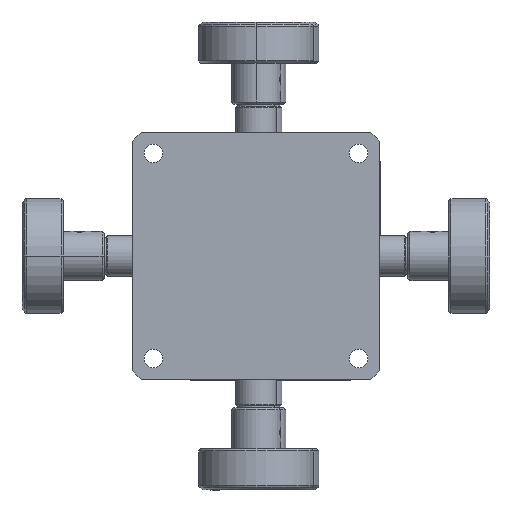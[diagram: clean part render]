
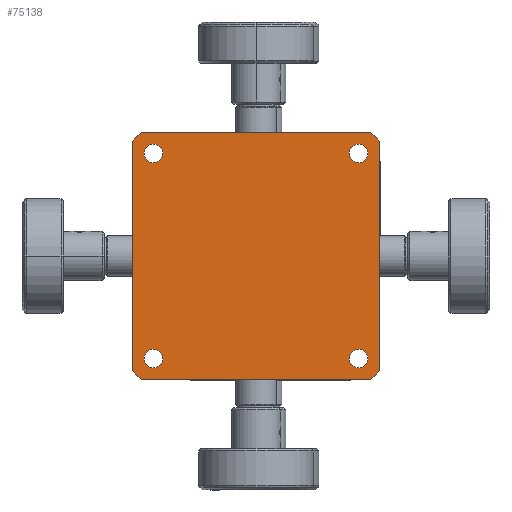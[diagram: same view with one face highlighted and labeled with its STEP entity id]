
A CAD part, front view. The second image highlights one B-rep face of the part: STEP entity #75138.
In plain terms, the highlighted planar face has unit normal (0, -1, 0).
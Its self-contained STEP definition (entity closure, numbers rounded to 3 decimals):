
#1743 = CIRCLE ( 'NONE', #93857, 2.25 ) ;
#2225 = VERTEX_POINT ( 'NONE', #23548 ) ;
#2943 = VERTEX_POINT ( 'NONE', #48258 ) ;
#6163 = EDGE_CURVE ( 'NONE', #82065, #85429, #98895, .T. ) ;
#6830 = ORIENTED_EDGE ( 'NONE', *, *, #37464, .T. ) ;
#8238 = DIRECTION ( 'NONE',  ( -0.707, 0., 0.707 ) ) ;
#9490 = ORIENTED_EDGE ( 'NONE', *, *, #87876, .T. ) ;
#9529 = DIRECTION ( 'NONE',  ( 0., 1., 0. ) ) ;
#9963 = ORIENTED_EDGE ( 'NONE', *, *, #86907, .T. ) ;
#9985 = CIRCLE ( 'NONE', #32403, 2.25 ) ;
#10302 = DIRECTION ( 'NONE',  ( 0., 0., 1. ) ) ;
#10327 = EDGE_CURVE ( 'NONE', #97647, #83918, #12019, .T. ) ;
#10379 = CARTESIAN_POINT ( 'NONE',  ( -30., 0., 30. ) ) ;
#10443 = FACE_BOUND ( 'NONE', #88870, .T. ) ;
#11024 = ORIENTED_EDGE ( 'NONE', *, *, #13694, .F. ) ;
#12019 = LINE ( 'NONE', #32781, #48084 ) ;
#12849 = FACE_BOUND ( 'NONE', #75709, .T. ) ;
#13459 = CIRCLE ( 'NONE', #94646, 2.25 ) ;
#13694 = EDGE_CURVE ( 'NONE', #29425, #85429, #78879, .T. ) ;
#15344 = VECTOR ( 'NONE', #36857, 1000. ) ;
#15968 = CARTESIAN_POINT ( 'NONE',  ( -1., 0., 59. ) ) ;
#16362 = EDGE_CURVE ( 'NONE', #87257, #94373, #9985, .T. ) ;
#16370 = VERTEX_POINT ( 'NONE', #53604 ) ;
#19695 = AXIS2_PLACEMENT_3D ( 'NONE', #67908, #21924, #75607 ) ;
#19787 = DIRECTION ( 'NONE',  ( 0., -1., 0. ) ) ;
#21456 = ORIENTED_EDGE ( 'NONE', *, *, #45160, .T. ) ;
#21851 = LINE ( 'NONE', #74332, #60314 ) ;
#21924 = DIRECTION ( 'NONE',  ( 0., 1., 0. ) ) ;
#22011 = CARTESIAN_POINT ( 'NONE',  ( 25., 0., 25. ) ) ;
#22739 = ORIENTED_EDGE ( 'NONE', *, *, #65158, .T. ) ;
#23059 = CARTESIAN_POINT ( 'NONE',  ( -25., 0., 25. ) ) ;
#23219 = EDGE_CURVE ( 'NONE', #25332, #30053, #70305, .T. ) ;
#23548 = CARTESIAN_POINT ( 'NONE',  ( -28., 0., -30. ) ) ;
#24222 = LINE ( 'NONE', #25736, #42244 ) ;
#25332 = VERTEX_POINT ( 'NONE', #49418 ) ;
#25736 = CARTESIAN_POINT ( 'NONE',  ( -59., 0., 1. ) ) ;
#25877 = CARTESIAN_POINT ( 'NONE',  ( -25., 0., -25. ) ) ;
#27598 = CARTESIAN_POINT ( 'NONE',  ( -30., 0., -28. ) ) ;
#29425 = VERTEX_POINT ( 'NONE', #27598 ) ;
#29489 = VECTOR ( 'NONE', #8238, 1000. ) ;
#29734 = DIRECTION ( 'NONE',  ( 1., 0., 0. ) ) ;
#29836 = DIRECTION ( 'NONE',  ( 0., 1., 0. ) ) ;
#30053 = VERTEX_POINT ( 'NONE', #70994 ) ;
#30246 = CARTESIAN_POINT ( 'NONE',  ( 22.75, 0., 25. ) ) ;
#30741 = DIRECTION ( 'NONE',  ( 1., 0., 0. ) ) ;
#31396 = LINE ( 'NONE', #99420, #94985 ) ;
#31653 = CARTESIAN_POINT ( 'NONE',  ( 25., 0., -25. ) ) ;
#32403 = AXIS2_PLACEMENT_3D ( 'NONE', #23059, #76730, #30741 ) ;
#32781 = CARTESIAN_POINT ( 'NONE',  ( 29., 0., -29. ) ) ;
#33104 = DIRECTION ( 'NONE',  ( 0.707, 0., 0.707 ) ) ;
#33343 = LINE ( 'NONE', #44622, #15344 ) ;
#33539 = DIRECTION ( 'NONE',  ( 1., 0., 0. ) ) ;
#35376 = VECTOR ( 'NONE', #38886, 1000. ) ;
#35996 = AXIS2_PLACEMENT_3D ( 'NONE', #25877, #79538, #33539 ) ;
#36209 = CARTESIAN_POINT ( 'NONE',  ( 25., 0., 25. ) ) ;
#36720 = CARTESIAN_POINT ( 'NONE',  ( -27.25, 0., 25. ) ) ;
#36857 = DIRECTION ( 'NONE',  ( 0., 0., -1. ) ) ;
#37464 = EDGE_CURVE ( 'NONE', #16370, #2943, #72864, .T. ) ;
#38094 = CARTESIAN_POINT ( 'NONE',  ( -29., 0., 29. ) ) ;
#38886 = DIRECTION ( 'NONE',  ( -0.707, 0., -0.707 ) ) ;
#39383 = DIRECTION ( 'NONE',  ( 1., 0., 0. ) ) ;
#40471 = VECTOR ( 'NONE', #10302, 1000. ) ;
#41714 = CARTESIAN_POINT ( 'NONE',  ( -30., 0., 28. ) ) ;
#42244 = VECTOR ( 'NONE', #56274, 1000. ) ;
#42970 = EDGE_CURVE ( 'NONE', #97647, #2225, #31396, .T. ) ;
#43102 = EDGE_CURVE ( 'NONE', #29425, #2225, #24222, .T. ) ;
#43960 = DIRECTION ( 'NONE',  ( 1., 0., 0. ) ) ;
#43980 = CIRCLE ( 'NONE', #35996, 2.25 ) ;
#44622 = CARTESIAN_POINT ( 'NONE',  ( 30., 0., 30. ) ) ;
#45160 = EDGE_CURVE ( 'NONE', #94373, #87257, #45526, .T. ) ;
#45526 = CIRCLE ( 'NONE', #98704, 2.25 ) ;
#45935 = EDGE_CURVE ( 'NONE', #25332, #83918, #33343, .T. ) ;
#46266 = CARTESIAN_POINT ( 'NONE',  ( 27.25, 0., 25. ) ) ;
#47467 = ORIENTED_EDGE ( 'NONE', *, *, #6163, .T. ) ;
#48084 = VECTOR ( 'NONE', #33104, 1000. ) ;
#48258 = CARTESIAN_POINT ( 'NONE',  ( 22.75, 0., -25. ) ) ;
#49147 = ORIENTED_EDGE ( 'NONE', *, *, #69660, .F. ) ;
#49418 = CARTESIAN_POINT ( 'NONE',  ( 30., 0., 28. ) ) ;
#51322 = FACE_BOUND ( 'NONE', #86356, .T. ) ;
#52856 = AXIS2_PLACEMENT_3D ( 'NONE', #88576, #19787, #73523 ) ;
#53604 = CARTESIAN_POINT ( 'NONE',  ( 27.25, 0., -25. ) ) ;
#55546 = CARTESIAN_POINT ( 'NONE',  ( -25., 0., 25. ) ) ;
#56274 = DIRECTION ( 'NONE',  ( 0.707, 0., -0.707 ) ) ;
#56432 = CARTESIAN_POINT ( 'NONE',  ( -27.25, 0., -25. ) ) ;
#58222 = ORIENTED_EDGE ( 'NONE', *, *, #42970, .F. ) ;
#60314 = VECTOR ( 'NONE', #74651, 1000. ) ;
#61890 = VERTEX_POINT ( 'NONE', #56432 ) ;
#62540 = EDGE_LOOP ( 'NONE', ( #76926, #9963 ) ) ;
#63257 = DIRECTION ( 'NONE',  ( 1., 0., 0. ) ) ;
#64824 = ORIENTED_EDGE ( 'NONE', *, *, #16362, .T. ) ;
#65158 = EDGE_CURVE ( 'NONE', #86727, #75556, #13459, .T. ) ;
#65810 = PLANE ( 'NONE',  #52856 ) ;
#65931 = EDGE_LOOP ( 'NONE', ( #49147, #47467, #11024, #66085, #58222, #81224, #94606, #77878 ) ) ;
#66085 = ORIENTED_EDGE ( 'NONE', *, *, #43102, .T. ) ;
#67908 = CARTESIAN_POINT ( 'NONE',  ( -25., 0., -25. ) ) ;
#69279 = FACE_OUTER_BOUND ( 'NONE', #65931, .T. ) ;
#69660 = EDGE_CURVE ( 'NONE', #82065, #30053, #21851, .T. ) ;
#70305 = LINE ( 'NONE', #15968, #29489 ) ;
#70994 = CARTESIAN_POINT ( 'NONE',  ( 28., 0., 30. ) ) ;
#72864 = CIRCLE ( 'NONE', #89441, 2.25 ) ;
#73523 = DIRECTION ( 'NONE',  ( -1., 0., 0. ) ) ;
#73779 = CARTESIAN_POINT ( 'NONE',  ( 28., 0., -30. ) ) ;
#74332 = CARTESIAN_POINT ( 'NONE',  ( 30., 0., 30. ) ) ;
#74651 = DIRECTION ( 'NONE',  ( 1., 0., 0. ) ) ;
#75138 = ADVANCED_FACE ( 'NONE', ( #10443, #51322, #89664, #12849, #69279 ), #65810, .T. ) ;
#75556 = VERTEX_POINT ( 'NONE', #46266 ) ;
#75607 = DIRECTION ( 'NONE',  ( 1., 0., 0. ) ) ;
#75704 = DIRECTION ( 'NONE',  ( 0., 1., 0. ) ) ;
#75709 = EDGE_LOOP ( 'NONE', ( #6830, #9490 ) ) ;
#75801 = CARTESIAN_POINT ( 'NONE',  ( 25., 0., -25. ) ) ;
#76364 = CARTESIAN_POINT ( 'NONE',  ( -22.75, 0., -25. ) ) ;
#76729 = DIRECTION ( 'NONE',  ( -1., 0., 0. ) ) ;
#76730 = DIRECTION ( 'NONE',  ( 0., 1., 0. ) ) ;
#76926 = ORIENTED_EDGE ( 'NONE', *, *, #82167, .T. ) ;
#76996 = CIRCLE ( 'NONE', #87749, 2.25 ) ;
#77878 = ORIENTED_EDGE ( 'NONE', *, *, #23219, .T. ) ;
#78879 = LINE ( 'NONE', #10379, #40471 ) ;
#79538 = DIRECTION ( 'NONE',  ( 0., 1., 0. ) ) ;
#80315 = EDGE_CURVE ( 'NONE', #75556, #86727, #76996, .T. ) ;
#81224 = ORIENTED_EDGE ( 'NONE', *, *, #10327, .T. ) ;
#82065 = VERTEX_POINT ( 'NONE', #89685 ) ;
#82167 = EDGE_CURVE ( 'NONE', #86481, #61890, #97268, .T. ) ;
#83481 = DIRECTION ( 'NONE',  ( 1., 0., 0. ) ) ;
#83918 = VERTEX_POINT ( 'NONE', #84991 ) ;
#84991 = CARTESIAN_POINT ( 'NONE',  ( 30., 0., -28. ) ) ;
#85332 = DIRECTION ( 'NONE',  ( 0., 1., 0. ) ) ;
#85429 = VERTEX_POINT ( 'NONE', #41714 ) ;
#86356 = EDGE_LOOP ( 'NONE', ( #64824, #21456 ) ) ;
#86481 = VERTEX_POINT ( 'NONE', #76364 ) ;
#86727 = VERTEX_POINT ( 'NONE', #30246 ) ;
#86907 = EDGE_CURVE ( 'NONE', #61890, #86481, #43980, .T. ) ;
#87257 = VERTEX_POINT ( 'NONE', #92481 ) ;
#87749 = AXIS2_PLACEMENT_3D ( 'NONE', #22011, #75704, #29734 ) ;
#87876 = EDGE_CURVE ( 'NONE', #2943, #16370, #1743, .T. ) ;
#88576 = CARTESIAN_POINT ( 'NONE',  ( -30., 0., 30. ) ) ;
#88870 = EDGE_LOOP ( 'NONE', ( #90803, #22739 ) ) ;
#89441 = AXIS2_PLACEMENT_3D ( 'NONE', #75801, #29836, #83481 ) ;
#89664 = FACE_BOUND ( 'NONE', #62540, .T. ) ;
#89685 = CARTESIAN_POINT ( 'NONE',  ( -28., 0., 30. ) ) ;
#89872 = DIRECTION ( 'NONE',  ( 0., 1., 0. ) ) ;
#90803 = ORIENTED_EDGE ( 'NONE', *, *, #80315, .T. ) ;
#92481 = CARTESIAN_POINT ( 'NONE',  ( -22.75, 0., 25. ) ) ;
#93857 = AXIS2_PLACEMENT_3D ( 'NONE', #31653, #85332, #39383 ) ;
#94373 = VERTEX_POINT ( 'NONE', #36720 ) ;
#94606 = ORIENTED_EDGE ( 'NONE', *, *, #45935, .F. ) ;
#94646 = AXIS2_PLACEMENT_3D ( 'NONE', #36209, #89872, #43960 ) ;
#94985 = VECTOR ( 'NONE', #76729, 1000. ) ;
#97268 = CIRCLE ( 'NONE', #19695, 2.25 ) ;
#97647 = VERTEX_POINT ( 'NONE', #73779 ) ;
#98704 = AXIS2_PLACEMENT_3D ( 'NONE', #55546, #9529, #63257 ) ;
#98895 = LINE ( 'NONE', #38094, #35376 ) ;
#99420 = CARTESIAN_POINT ( 'NONE',  ( 30., 0., -30. ) ) ;
